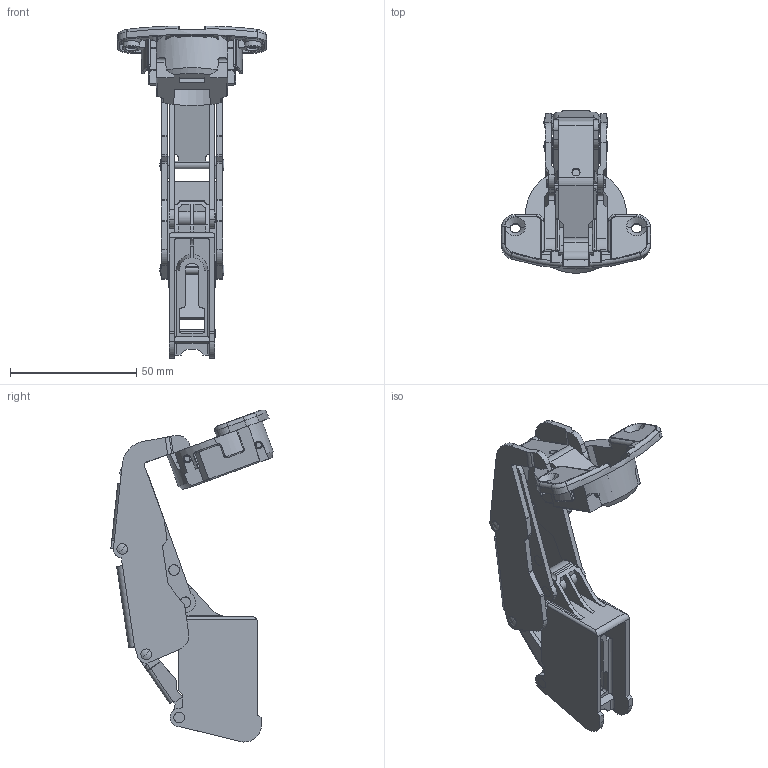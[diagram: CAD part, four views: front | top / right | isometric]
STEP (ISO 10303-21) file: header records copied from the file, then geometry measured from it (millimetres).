
FILE_DESCRIPTION (( 'STEP AP203' ), '1' );
FILE_NAME ('H160_34_0_160.STEP', '2013-05-30T11:59:24', ( '' ), ( '' ), 'SwSTEP 2.0', 'SolidWorks 2012', '' );
FILE_SCHEMA (( 'CONFIG_CONTROL_DESIGN' ));
Length unit declared in the file: millimetre
Products named in the file (8): H160_34_0_160; H160_socket; H160_arm_SJ; H160_arm_SL_23180; H160_arm_GD; H160_arm_CT; H160_body_00
Assembly tree (7 placements, depth 3):
  H160_34_0_160
    H160_34_0_160
      H160_body_00
      H160_arm_CT
      H160_arm_GD
      H160_arm_SL_23180
      H160_arm_SJ
      H160_socket
Bounding box: 59 x 64.24 x 131.41 mm (x, y, z)
Volume: 34311.6 mm3; surface area: 38009.9 mm2
Topology: 6 solids, 10 shells, 1092 faces, 3058 edges, 1956 vertices
Faces by surface type: plane 580, cylinder 391, cone 50, torus 45, bspline 18, sphere 8
Entity records: 36980 total; most frequent: CARTESIAN_POINT 7784, ORIENTED_EDGE 6108, DIRECTION 5900, EDGE_CURVE 3054, AXIS2_PLACEMENT_3D 2009, VERTEX_POINT 1956, LINE 1882, VECTOR 1882
